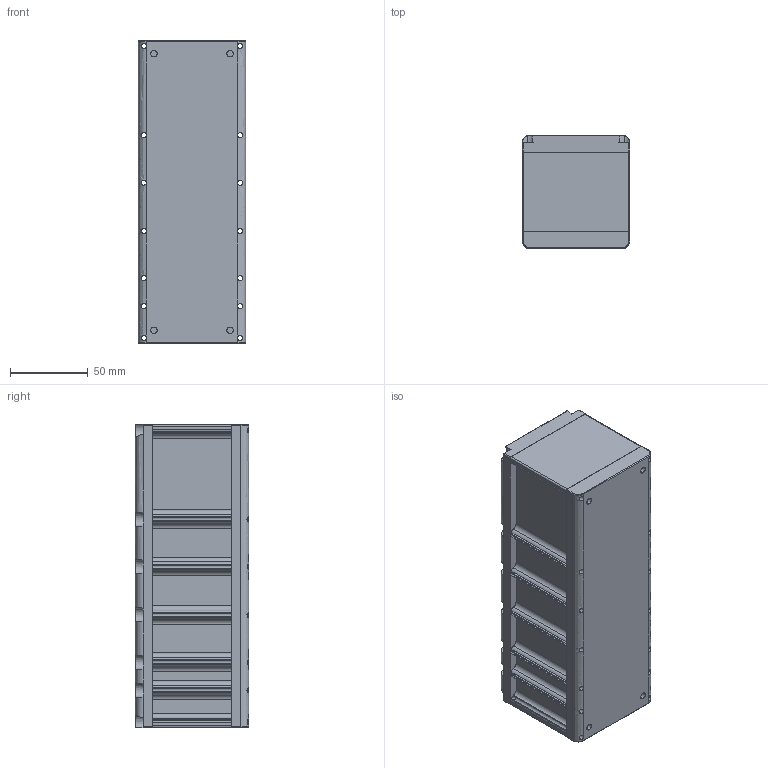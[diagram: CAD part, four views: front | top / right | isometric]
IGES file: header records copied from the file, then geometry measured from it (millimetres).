
Start section: SolidWorks IGES file using analytic representation for surfaces
Global section: file name: K:\SAPELEM\BUREAU D'ETUDES\Dossiers S\S100_S199\S170 Site internet\3D\TURBOS\2T41400002.igs; native system: SolidWorks 2007; preprocessor: SolidWorks 2007; author: YAR; date: 080313.120019; units: millimetre
Bounding box: 69 x 73 x 195 mm (x, y, z)
Surface area: 131445.2 mm2 (no closed solid volume)
Topology: 0 solids, 0 shells, 576 faces, 9476 edges, 9476 vertices
Faces by surface type: revolution 366, bspline 210
